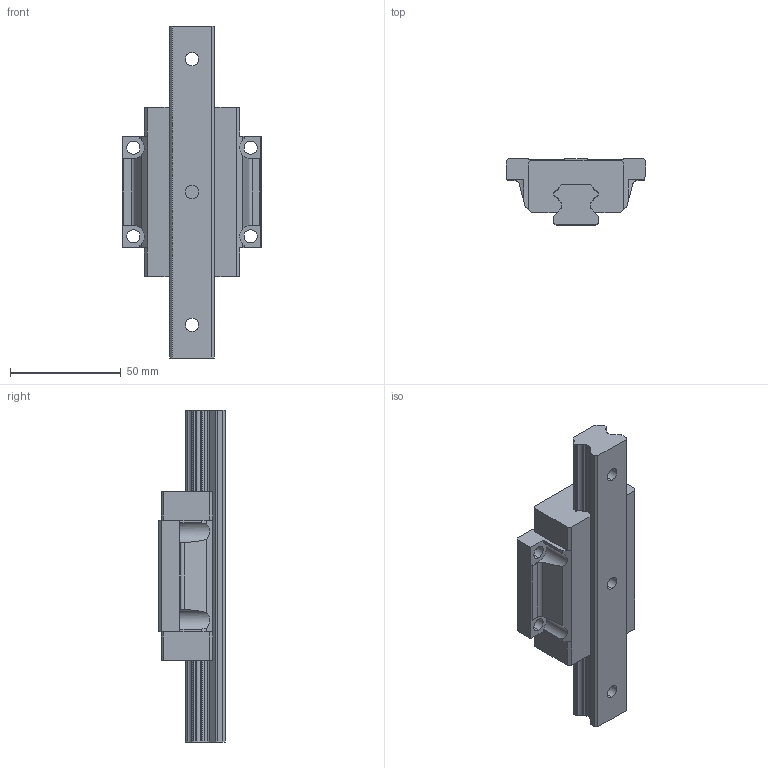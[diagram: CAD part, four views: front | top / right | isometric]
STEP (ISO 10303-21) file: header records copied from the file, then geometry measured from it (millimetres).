
FILE_DESCRIPTION (( 'STEP AP214' ), '1' );
FILE_NAME ('WFL-20-CC (3D).STEP', '2019-10-03T08:43:12', ( '' ), ( '' ), 'SwSTEP 2.0', 'SolidWorks 2016', '' );
FILE_SCHEMA (( 'AUTOMOTIVE_DESIGN' ));
Length unit declared in the file: millimetre
Products named in the file (3): WFL-20-CC_Ray; WFL-20-CC_Araba; WFL-20-CC (3D)
Assembly tree (2 placements, depth 2):
  WFL-20-CC (3D)
    WFL-20-CC_Araba
    WFL-20-CC_Ray
Bounding box: 63 x 30 x 150 mm (x, y, z)
Volume: 117690.6 mm3; surface area: 30033.7 mm2
Topology: 2 solids, 2 shells, 358 faces, 992 edges, 660 vertices
Faces by surface type: plane 238, cylinder 74, bspline 46
Entity records: 15917 total; most frequent: CARTESIAN_POINT 4797, ORIENTED_EDGE 1984, DIRECTION 1662, EDGE_CURVE 992, LINE 740, VECTOR 740, VERTEX_POINT 660, AXIS2_PLACEMENT_3D 461
